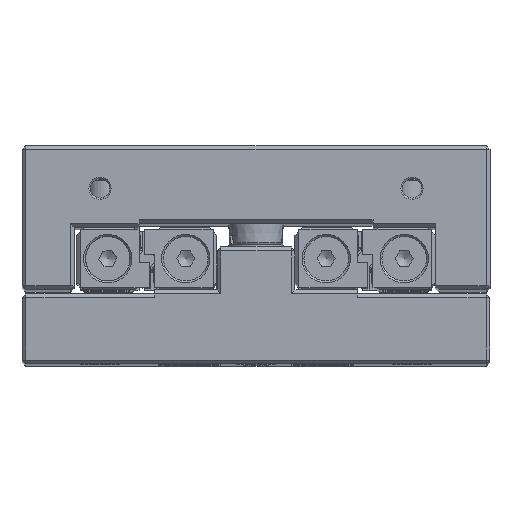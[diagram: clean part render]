
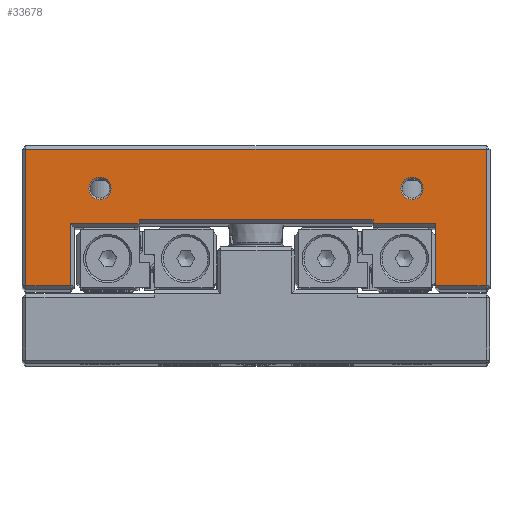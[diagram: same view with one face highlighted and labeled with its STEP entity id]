
A CAD part, top view. The second image highlights one B-rep face of the part: STEP entity #33678.
In plain terms, the highlighted planar face has unit normal (0, 0, 1).
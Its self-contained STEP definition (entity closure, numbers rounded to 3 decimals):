
#1161=FACE_BOUND('',#5805,.T.);
#1162=FACE_BOUND('',#5806,.T.);
#2173=PLANE('',#36295);
#3750=FACE_OUTER_BOUND('',#5804,.T.);
#5804=EDGE_LOOP('',(#26551,#26552,#26553,#26554,#26555,#26556,#26557,#26558,
#26559,#26560,#26561,#26562));
#5805=EDGE_LOOP('',(#26563));
#5806=EDGE_LOOP('',(#26564));
#7310=CIRCLE('',#36120,1.43);
#7313=CIRCLE('',#36125,1.43);
#8987=LINE('',#51635,#11755);
#8991=LINE('',#51644,#11759);
#9291=LINE('',#53116,#12059);
#9302=LINE('',#53140,#12070);
#9306=LINE('',#53146,#12074);
#9309=LINE('',#53151,#12077);
#9315=LINE('',#53161,#12083);
#9323=LINE('',#53175,#12091);
#9326=LINE('',#53179,#12094);
#9350=LINE('',#53231,#12118);
#9357=LINE('',#53244,#12125);
#9366=LINE('',#53262,#12134);
#11755=VECTOR('',#41295,10.);
#11759=VECTOR('',#41301,10.);
#12059=VECTOR('',#42335,10.);
#12070=VECTOR('',#42350,10.);
#12074=VECTOR('',#42356,10.);
#12077=VECTOR('',#42361,10.);
#12083=VECTOR('',#42371,10.);
#12091=VECTOR('',#42385,10.);
#12094=VECTOR('',#42390,10.);
#12118=VECTOR('',#42460,10.);
#12125=VECTOR('',#42471,10.);
#12134=VECTOR('',#42490,10.);
#14756=VERTEX_POINT('',#51632);
#14757=VERTEX_POINT('',#51634);
#14759=VERTEX_POINT('',#51640);
#14761=VERTEX_POINT('',#51643);
#14911=VERTEX_POINT('',#52106);
#14914=VERTEX_POINT('',#52116);
#15129=VERTEX_POINT('',#53113);
#15130=VERTEX_POINT('',#53115);
#15140=VERTEX_POINT('',#53138);
#15141=VERTEX_POINT('',#53139);
#15142=VERTEX_POINT('',#53145);
#15143=VERTEX_POINT('',#53150);
#15145=VERTEX_POINT('',#53160);
#15148=VERTEX_POINT('',#53173);
#18570=EDGE_CURVE('',#14757,#14756,#8987,.T.);
#18574=EDGE_CURVE('',#14761,#14759,#8991,.T.);
#18797=EDGE_CURVE('',#14911,#14911,#7310,.T.);
#18802=EDGE_CURVE('',#14914,#14914,#7313,.T.);
#19116=EDGE_CURVE('',#15130,#15129,#9291,.T.);
#19127=EDGE_CURVE('',#15140,#15141,#9302,.T.);
#19131=EDGE_CURVE('',#15141,#15142,#9306,.T.);
#19134=EDGE_CURVE('',#15142,#15143,#9309,.T.);
#19140=EDGE_CURVE('',#15143,#15145,#9315,.T.);
#19148=EDGE_CURVE('',#15148,#15129,#9323,.T.);
#19151=EDGE_CURVE('',#15145,#15148,#9326,.T.);
#19177=EDGE_CURVE('',#14761,#14756,#9350,.T.);
#19184=EDGE_CURVE('',#14757,#15140,#9357,.T.);
#19193=EDGE_CURVE('',#15130,#14759,#9366,.T.);
#26551=ORIENTED_EDGE('',*,*,#19193,.F.);
#26552=ORIENTED_EDGE('',*,*,#19116,.T.);
#26553=ORIENTED_EDGE('',*,*,#19148,.F.);
#26554=ORIENTED_EDGE('',*,*,#19151,.F.);
#26555=ORIENTED_EDGE('',*,*,#19140,.F.);
#26556=ORIENTED_EDGE('',*,*,#19134,.F.);
#26557=ORIENTED_EDGE('',*,*,#19131,.F.);
#26558=ORIENTED_EDGE('',*,*,#19127,.F.);
#26559=ORIENTED_EDGE('',*,*,#19184,.F.);
#26560=ORIENTED_EDGE('',*,*,#18570,.T.);
#26561=ORIENTED_EDGE('',*,*,#19177,.F.);
#26562=ORIENTED_EDGE('',*,*,#18574,.T.);
#26563=ORIENTED_EDGE('',*,*,#18797,.F.);
#26564=ORIENTED_EDGE('',*,*,#18802,.F.);
#33678=ADVANCED_FACE('',(#3750,#1161,#1162),#2173,.T.);
#36120=AXIS2_PLACEMENT_3D('',#52108,#41846,#41847);
#36125=AXIS2_PLACEMENT_3D('',#52118,#41858,#41859);
#36295=AXIS2_PLACEMENT_3D('',#53261,#42488,#42489);
#41295=DIRECTION('',(0.,1.,0.));
#41301=DIRECTION('',(0.,-1.,0.));
#41846=DIRECTION('center_axis',(0.,0.,
1.));
#41847=DIRECTION('ref_axis',(-1.,0.,0.));
#41858=DIRECTION('center_axis',(0.,0.,
1.));
#41859=DIRECTION('ref_axis',(-1.,0.,0.));
#42335=DIRECTION('',(0.,-1.,0.));
#42350=DIRECTION('',(0.,-1.,0.));
#42356=DIRECTION('',(-1.,0.,0.));
#42361=DIRECTION('',(0.,1.,0.));
#42371=DIRECTION('',(1.,0.,0.));
#42385=DIRECTION('',(-1.,0.,0.));
#42390=DIRECTION('',(0.,-1.,0.));
#42460=DIRECTION('',(-1.,0.,0.));
#42471=DIRECTION('',(-1.,0.,0.));
#42488=DIRECTION('center_axis',(0.,0.,
1.));
#42489=DIRECTION('ref_axis',(1.,0.,0.));
#42490=DIRECTION('',(-1.,0.,0.));
#51632=CARTESIAN_POINT('',(-9.614,-6.007,89.122));
#51634=CARTESIAN_POINT('',(-9.614,-6.507,89.122));
#51635=CARTESIAN_POINT('',(-9.614,-6.507,89.122));
#51640=CARTESIAN_POINT('',(20.386,-6.507,89.122));
#51643=CARTESIAN_POINT('',(20.386,-6.007,89.122));
#51644=CARTESIAN_POINT('',(20.386,-7.007,89.122));
#52106=CARTESIAN_POINT('',(-13.185,-2.007,89.122));
#52108=CARTESIAN_POINT('Origin',(-14.614,-2.007,89.122));
#52116=CARTESIAN_POINT('',(26.815,-2.007,89.122));
#52118=CARTESIAN_POINT('Origin',(25.386,-2.007,89.122));
#53113=CARTESIAN_POINT('',(28.386,-14.507,89.122));
#53115=CARTESIAN_POINT('',(28.386,-6.507,89.122));
#53116=CARTESIAN_POINT('',(28.386,-15.007,89.122));
#53138=CARTESIAN_POINT('',(-18.414,-6.507,89.122));
#53139=CARTESIAN_POINT('',(-18.414,-14.507,89.122));
#53140=CARTESIAN_POINT('',(-18.414,-10.382,89.122));
#53145=CARTESIAN_POINT('',(-24.114,-14.507,89.122));
#53146=CARTESIAN_POINT('',(-9.614,-14.507,89.122));
#53150=CARTESIAN_POINT('',(-24.114,2.993,89.122));
#53151=CARTESIAN_POINT('',(-24.114,-1.132,89.122));
#53160=CARTESIAN_POINT('',(34.886,2.993,89.122));
#53161=CARTESIAN_POINT('',(20.386,2.993,89.122));
#53173=CARTESIAN_POINT('',(34.886,-14.507,89.122));
#53175=CARTESIAN_POINT('',(16.886,-14.507,89.122));
#53179=CARTESIAN_POINT('',(34.886,-10.382,89.122));
#53231=CARTESIAN_POINT('',(-2.114,-6.007,89.122));
#53244=CARTESIAN_POINT('',(-6.264,-6.507,89.122));
#53261=CARTESIAN_POINT('Origin',(5.386,-5.757,89.122));
#53262=CARTESIAN_POINT('',(12.886,-6.507,89.122));
